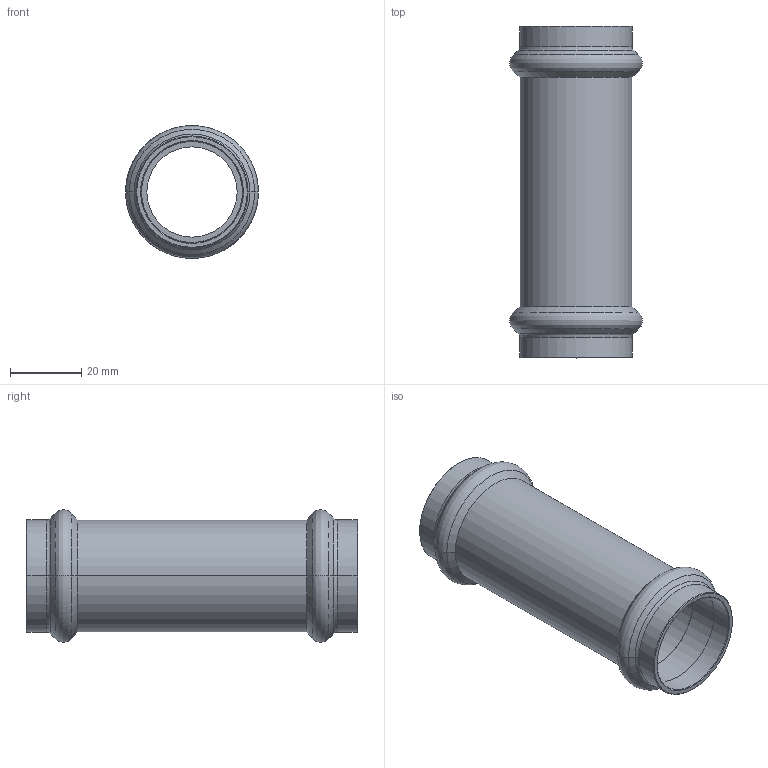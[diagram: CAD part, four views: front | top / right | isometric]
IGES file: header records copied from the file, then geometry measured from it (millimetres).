
Start section: Elysium IGES Interface
Global section: file name: C:\Users\Wallenburg\Desktop\3d modellen sudo\S-Pr VP\SP6275V\6275VW28.igs; native system: CoCreate Modeling 17.00A  17-Jun-2010; preprocessor: CoCreate IGES_3D V2.2; author: Unknown; organization: Unknown; date: 20130110.143521; units: millimetre
Bounding box: 37.2 x 93 x 37.17 mm (x, y, z)
Volume: 16626 mm3; surface area: 18805.4 mm2
Topology: 1 solids, 1 shells, 58 faces, 124 edges, 72 vertices
Faces by surface type: bspline 58
